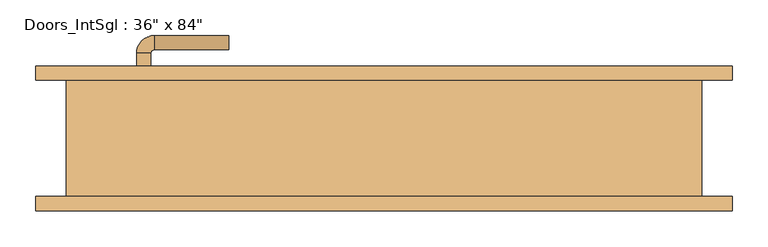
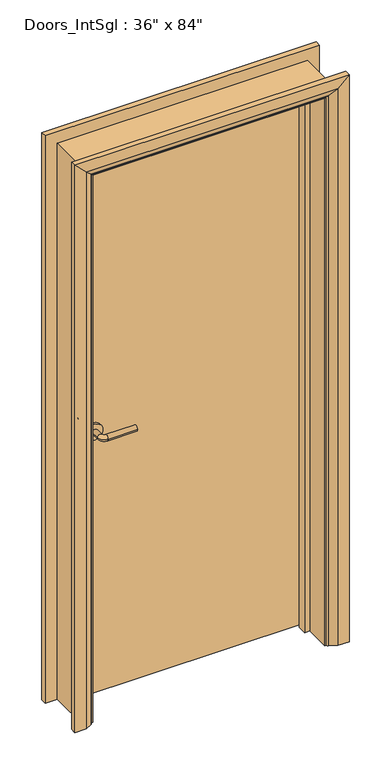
"""IFC4 building model written with IfcOpenShell, lengths in millimetres: door geometry."""

from ifc_helpers import new_model, si_unit, point, frame, frame_2d, origin, place, context, project, spatial, polyline, circle_curve, ellipse_curve, trimmed, segment, composite_curve, outline, extrude, faceted_brep, source, transform, mapped, element, save
from ifc_brep_helpers import plane_surface, cylinder_surface, revolved_surface, advanced_brep


def door_99925bc8(model_context):
    return source(origin(), model_context, "Body", "SolidModel", [
        advanced_brep(
        [(-348.0, 36.0, 1000.0), (-328.0, 36.0, 1000.0), (-328.0, 6.0, 1000.0), (-348.0, 6.0, 1000.0), (-323.0, 1.0, 1000.0), (-323.0, -19.0, 1000.0), (-218.0, -19.0, 1000.0), (-218.0, 1.0, 1000.0)],
        [
            (0, 1, circle_curve(frame((-338.0, 36.0, 1000.0), z_axis=(0.0, 1.0, 0.0), x_axis=(1.0, 0.0, 0.0)), 10.0)),
            (1, 0, circle_curve(frame((-338.0, 36.0, 1000.0), z_axis=(0.0, 1.0, 0.0), x_axis=(1.0, 0.0, 0.0)), 10.0)),
            (1, 2),
            (2, 3, circle_curve(frame((-338.0, 6.0, 1000.0), z_axis=(0.0, 1.0, 0.0), x_axis=(1.0, 0.0, 0.0)), 10.0)),
            (3, 0),
            (3, 2, circle_curve(frame((-338.0, 6.0, 1000.0), z_axis=(0.0, 1.0, 0.0), x_axis=(1.0, 0.0, 0.0)), 10.0)),
            (4, 5, circle_curve(frame((-323.0, -9.0, 1000.0), z_axis=(-1.0, 0.0, 0.0), x_axis=(0.0, 1.0, 0.0)), 10.0)),
            (5, 3, circle_curve(frame((-323.0, 6.0, 1000.0), z_axis=(0.0, 0.0, -1.0), x_axis=(-1.0, 0.0, 0.0)), 25.0)),
            (2, 4, circle_curve(frame((-323.0, 6.0, 1000.0), z_axis=(0.0, 0.0, 1.0), x_axis=(-1.0, 0.0, 0.0)), 5.0)),
            (5, 4, circle_curve(frame((-323.0, -9.0, 1000.0), z_axis=(-1.0, 0.0, 0.0), x_axis=(0.0, 1.0, 0.0)), 10.0)),
            (6, 7, circle_curve(frame((-218.0, -9.0, 1000.0), z_axis=(1.0, 0.0, 0.0), x_axis=(0.0, 1.0, 0.0)), 10.0)),
            (7, 6, circle_curve(frame((-218.0, -9.0, 1000.0), z_axis=(1.0, 0.0, 0.0), x_axis=(0.0, 1.0, 0.0)), 10.0)),
            (4, 7),
            (6, 5),
        ],
        [
            plane_surface(frame((-338.0, 36.0, 1000.0), z_axis=(0.0, 1.0, 0.0), x_axis=(0.0, 0.0, 1.0))),
            cylinder_surface(frame((-338.0, 36.0, 1000.0), z_axis=(0.0, 1.0, 0.0), x_axis=(1.0, 0.0, 0.0)), 10.0),
            revolved_surface(trimmed(ellipse_curve(frame((-338.0, 6.0, 1000.0), z_axis=(0.0, -1.0, 0.0), x_axis=(1.0, 0.0, 0.0)), 10.0, 10.0), [point((-348.0, 6.0, 1000.0))], [point((-328.0, 6.0, 1000.0))], True, "CARTESIAN"), (-323.0, 6.0, 1000.0), (0.0, 0.0, -1.0)),
            revolved_surface(trimmed(ellipse_curve(frame((-338.0, 6.0, 1000.0), z_axis=(0.0, -1.0, 0.0), x_axis=(1.0, 0.0, 0.0)), 10.0, 10.0), [point((-328.0, 6.0, 1000.0))], [point((-348.0, 6.0, 1000.0))], True, "CARTESIAN"), (-323.0, 6.0, 1000.0), (0.0, 0.0, -1.0)),
            plane_surface(frame((-218.0, -9.0, 1000.0), z_axis=(1.0, 0.0, 0.0), x_axis=(0.0, 0.0, 1.0))),
            cylinder_surface(frame((-323.0, -9.0, 1000.0), z_axis=(-1.0, 0.0, 0.0), x_axis=(0.0, 1.0, 0.0)), 10.0),
        ],
        [
            (0, [[1, 2]]),
            (1, [[3, 4, 5, -2]]),
            (1, [[-5, 6, -3, -1]]),
            (2, [[7, 8, -4, 9]]),
            (3, [[10, -9, -6, -8]]),
            (4, [[11, 12]]),
            (5, [[13, -11, 14, -7]]),
            (5, [[-14, -12, -13, -10]]),
        ],
    ),
        extrude(outline(composite_curve([segment(trimmed(circle_curve(frame_2d((1000.0, -340.5)), 30.0), [point((1000.0, -370.5))], [point((1000.0, -310.5))], False, "CARTESIAN"), True, "CONTINUOUS"), segment(trimmed(circle_curve(frame_2d((1000.0, -340.5)), 30.0), [point((1000.0, -310.5))], [point((1000.0, -370.5))], False, "CARTESIAN"), True, "CONTINUOUS")], self_intersect=False)), frame((0.0, 36.0, 0.0), z_axis=(0.0, 1.0, 0.0), x_axis=(0.0, 0.0, 1.0)), (0.0, 0.0, 1.0), 8.0),
        advanced_brep(
        [(-348.0, 90.0, 1000.0), (-328.0, 90.0, 1000.0), (-348.0, 120.0, 1000.0), (-328.0, 120.0, 1000.0), (-323.0, 125.0, 1000.0), (-323.0, 145.0, 1000.0), (-218.0, 145.0, 1000.0), (-218.0, 125.0, 1000.0)],
        [
            (0, 1, circle_curve(frame((-338.0, 90.0, 1000.0), z_axis=(0.0, -1.0, 0.0), x_axis=(1.0, 0.0, 0.0)), 10.0)),
            (1, 0, circle_curve(frame((-338.0, 90.0, 1000.0), z_axis=(0.0, -1.0, 0.0), x_axis=(1.0, 0.0, 0.0)), 10.0)),
            (0, 2),
            (2, 3, circle_curve(frame((-338.0, 120.0, 1000.0), z_axis=(0.0, -1.0, 0.0), x_axis=(1.0, 0.0, 0.0)), 10.0)),
            (3, 1),
            (3, 2, circle_curve(frame((-338.0, 120.0, 1000.0), z_axis=(0.0, -1.0, 0.0), x_axis=(1.0, 0.0, 0.0)), 10.0)),
            (4, 3, circle_curve(frame((-323.0, 120.0, 1000.0), z_axis=(0.0, 0.0, 1.0), x_axis=(-1.0, 0.0, 0.0)), 5.0)),
            (2, 5, circle_curve(frame((-323.0, 120.0, 1000.0), z_axis=(0.0, 0.0, -1.0), x_axis=(-1.0, 0.0, 0.0)), 25.0)),
            (5, 4, circle_curve(frame((-323.0, 135.0, 1000.0), z_axis=(-1.0, 0.0, 0.0), x_axis=(0.0, -1.0, 0.0)), 10.0)),
            (4, 5, circle_curve(frame((-323.0, 135.0, 1000.0), z_axis=(-1.0, 0.0, 0.0), x_axis=(0.0, -1.0, 0.0)), 10.0)),
            (6, 7, circle_curve(frame((-218.0, 135.0, 1000.0), z_axis=(1.0, 0.0, 0.0), x_axis=(0.0, -1.0, 0.0)), 10.0)),
            (7, 6, circle_curve(frame((-218.0, 135.0, 1000.0), z_axis=(1.0, 0.0, 0.0), x_axis=(0.0, -1.0, 0.0)), 10.0)),
            (5, 6),
            (7, 4),
        ],
        [
            plane_surface(frame((-338.0, 90.0, 1000.0), z_axis=(0.0, -1.0, 0.0), x_axis=(0.0, 0.0, 1.0))),
            cylinder_surface(frame((-338.0, 90.0, 1000.0), z_axis=(0.0, -1.0, 0.0), x_axis=(1.0, 0.0, 0.0)), 10.0),
            revolved_surface(trimmed(ellipse_curve(frame((-338.0, 120.0, 1000.0), z_axis=(0.0, -1.0, 0.0), x_axis=(1.0, 0.0, 0.0)), 10.0, 10.0), [point((-348.0, 120.0, 1000.0))], [point((-328.0, 120.0, 1000.0))], True, "CARTESIAN"), (-323.0, 120.0, 1000.0), (0.0, 0.0, -1.0)),
            revolved_surface(trimmed(ellipse_curve(frame((-338.0, 120.0, 1000.0), z_axis=(0.0, -1.0, 0.0), x_axis=(1.0, 0.0, 0.0)), 10.0, 10.0), [point((-328.0, 120.0, 1000.0))], [point((-348.0, 120.0, 1000.0))], True, "CARTESIAN"), (-323.0, 120.0, 1000.0), (0.0, 0.0, -1.0)),
            plane_surface(frame((-218.0, 135.0, 1000.0), z_axis=(1.0, 0.0, 0.0), x_axis=(0.0, 0.0, 1.0))),
            cylinder_surface(frame((-323.0, 135.0, 1000.0), z_axis=(-1.0, 0.0, 0.0), x_axis=(0.0, -1.0, 0.0)), 10.0),
        ],
        [
            (0, [[1, 2]]),
            (1, [[-1, 3, 4, 5]]),
            (1, [[-2, -5, 6, -3]]),
            (2, [[7, -4, 8, 9]]),
            (3, [[-8, -6, -7, 10]]),
            (4, [[11, 12]]),
            (5, [[-9, 13, -12, 14]]),
            (5, [[-10, -14, -11, -13]]),
        ],
    ),
        extrude(outline(composite_curve([segment(trimmed(circle_curve(frame_2d((1000.0, -340.5)), 30.0), [point((1000.0, -370.5))], [point((1000.0, -310.5))], False, "CARTESIAN"), True, "CONTINUOUS"), segment(trimmed(circle_curve(frame_2d((1000.0, -340.5)), 30.0), [point((1000.0, -310.5))], [point((1000.0, -370.5))], False, "CARTESIAN"), True, "CONTINUOUS")], self_intersect=False)), frame((0.0, 82.0, 0.0), z_axis=(0.0, 1.0, 0.0), x_axis=(0.0, 0.0, 1.0)), (0.0, 0.0, 1.0), 8.0),
        extrude(outline(polyline([(413.0, 44.0), (-413.0, 44.0), (-413.0, 82.0), (413.0, 82.0), (413.0, 44.0)])), frame((0.0, 0.0, 8.0), z_axis=(0.0, 0.0, 1.0), x_axis=(1.0, 0.0, 0.0)), (0.0, 0.0, 1.0), 2060.0),
        advanced_brep(
        [(490.0, 102.0, 0.0), (490.0, 82.0, 0.0), (420.0, 82.0, 0.0), (424.0, 88.0, 0.0), (450.0, 102.0, 0.0), (490.0, 102.0, 2145.0), (490.0, 82.0, 2145.0), (-490.0, 82.0, 2145.0), (-490.0, 82.0, 0.0), (-420.0, 82.0, 0.0), (-420.0, 82.0, 2075.0), (420.0, 82.0, 2075.0), (424.0, 88.0, 2079.0), (450.0, 102.0, 2105.0), (-450.0, 102.0, 2105.0), (-450.0, 102.0, 0.0), (-490.0, 102.0, 0.0), (-490.0, 102.0, 2145.0), (-424.0, 88.0, 2079.0), (-424.0, 88.0, 0.0)],
        [
            (0, 1),
            (1, 2),
            (2, 3, circle_curve(frame((428.0, 81.0, 0.0), z_axis=(0.0, 0.0, -1.0), x_axis=(1.0, 0.0, 0.0)), 8.0622577)),
            (3, 4),
            (4, 0),
            (0, 5),
            (5, 6),
            (6, 1),
            (6, 7),
            (7, 8),
            (8, 9),
            (9, 10),
            (10, 11),
            (11, 2),
            (11, 12, ellipse_curve(frame((428.0, 81.0, 2083.0), z_axis=(0.7071067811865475, 0.0, -0.7071067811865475), x_axis=(-0.7071067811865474, 0.0, -0.7071067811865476)), 11.4017543, 8.0622577)),
            (12, 3),
            (12, 13),
            (13, 4),
            (13, 14),
            (14, 15),
            (15, 16),
            (16, 17),
            (17, 5),
            (17, 7),
            (10, 18, ellipse_curve(frame((-428.0, 81.0, 2083.0), z_axis=(0.7071067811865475, 0.0, 0.7071067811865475), x_axis=(0.7071067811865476, 0.0, -0.7071067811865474)), 11.4017543, 8.0622577)),
            (18, 12),
            (18, 14),
            (15, 19),
            (19, 9, circle_curve(frame((-428.0, 81.0, 0.0), z_axis=(0.0, 0.0, -1.0), x_axis=(-1.0, 0.0, 0.0)), 8.0622577)),
            (8, 16),
            (19, 18),
        ],
        [
            plane_surface(frame((420.0, 82.0, 0.0), z_axis=(0.0, 0.0, -1.0), x_axis=(0.0, -1.0, 0.0))),
            plane_surface(frame((490.0, 102.0, 0.0), z_axis=(1.0, 0.0, 0.0), x_axis=(0.0, 0.0, 1.0))),
            plane_surface(frame((490.0, 82.0, 0.0), z_axis=(0.0, -1.0, 0.0), x_axis=(0.0, 0.0, 1.0))),
            cylinder_surface(frame((428.0, 81.0, 0.0), z_axis=(0.0, 0.0, -1.0), x_axis=(1.0, 0.0, 0.0)), 8.0622577),
            plane_surface(frame((424.0, 88.0, 0.0), z_axis=(-0.4740998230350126, 0.880471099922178, 0.0), x_axis=(0.0, 0.0, 1.0))),
            plane_surface(frame((450.0, 102.0, 0.0), z_axis=(0.0, 1.0, 0.0), x_axis=(0.0, 0.0, 1.0))),
            plane_surface(frame((490.0, 102.0, 2145.0), z_axis=(0.0, 0.0, 1.0), x_axis=(-1.0, 0.0, 0.0))),
            cylinder_surface(frame((420.0, 81.0, 2083.0), z_axis=(1.0, 0.0, 0.0), x_axis=(0.0, 0.0, 1.0)), 8.0622577),
            plane_surface(frame((424.0, 88.0, 2079.0), z_axis=(0.0, 0.8804710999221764, -0.4740998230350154), x_axis=(-1.0, 0.0, 0.0))),
            plane_surface(frame((-420.0, 82.0, 0.0), z_axis=(0.0, 0.0, -1.0), x_axis=(0.0, -1.0, 0.0))),
            plane_surface(frame((-490.0, 102.0, 2145.0), z_axis=(-1.0, 0.0, 0.0), x_axis=(0.0, 0.0, -1.0))),
            cylinder_surface(frame((-428.0, 81.0, 2075.0), z_axis=(0.0, 0.0, 1.0), x_axis=(-1.0, 0.0, 0.0)), 8.0622577),
            plane_surface(frame((-424.0, 88.0, 2079.0), z_axis=(0.47409982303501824, 0.8804710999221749, 0.0), x_axis=(0.0, 0.0, -1.0))),
        ],
        [
            (0, [[1, 2, 3, 4, 5]]),
            (1, [[-1, 6, 7, 8]]),
            (2, [[-2, -8, 9, 10, 11, 12, 13, 14]]),
            (3, [[-3, -14, 15, 16]]),
            (4, [[-4, -16, 17, 18]]),
            (5, [[-5, -18, 19, 20, 21, 22, 23, -6]]),
            (6, [[-7, -23, 24, -9]]),
            (7, [[-15, -13, 25, 26]]),
            (8, [[-17, -26, 27, -19]]),
            (9, [[-21, 28, 29, -11, 30]]),
            (10, [[-24, -22, -30, -10]]),
            (11, [[-25, -12, -29, 31]]),
            (12, [[-27, -31, -28, -20]]),
        ],
    ),
        extrude(outline(polyline([(0.0, -415.0), (0.0, -396.0), (2051.0, -396.0), (2051.0, 396.0), (0.0, 396.0), (0.0, 415.0), (2070.0, 415.0), (2070.0, -415.0), (0.0, -415.0)])), frame((0.0, 10.0, 0.0), z_axis=(0.0, 1.0, 0.0), x_axis=(0.0, 0.0, 1.0)), (0.0, 0.0, 1.0), 32.0),
        advanced_brep(
        [(-490.0, -102.0, 0.0), (-490.0, -82.0, 0.0), (-420.0, -82.0, 0.0), (-424.0, -88.0, 0.0), (-450.0, -102.0, 0.0), (-490.0, -102.0, 2145.0), (-490.0, -82.0, 2145.0), (-420.0, -82.0, 2075.0), (-424.0, -88.0, 2079.0), (-450.0, -102.0, 2105.0), (490.0, -102.0, 2145.0), (490.0, -82.0, 2145.0), (420.0, -82.0, 2075.0), (424.0, -88.0, 2079.0), (450.0, -102.0, 2105.0), (490.0, -102.0, 0.0), (450.0, -102.0, 0.0), (424.0, -88.0, 0.0), (420.0, -82.0, 0.0), (490.0, -82.0, 0.0)],
        [
            (0, 1),
            (1, 2),
            (2, 3, circle_curve(frame((-428.0, -81.0, 0.0), z_axis=(0.0, 0.0, -1.0), x_axis=(-1.0, 0.0, 0.0)), 8.0622577)),
            (3, 4),
            (4, 0),
            (0, 5),
            (5, 6),
            (6, 1),
            (6, 7),
            (7, 2),
            (7, 8, ellipse_curve(frame((-428.0, -81.0, 2083.0), z_axis=(-0.7071067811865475, 0.0, -0.7071067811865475), x_axis=(0.7071067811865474, 0.0, -0.7071067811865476)), 11.4017543, 8.0622577)),
            (8, 3),
            (8, 9),
            (9, 4),
            (9, 5),
            (5, 10),
            (10, 11),
            (11, 6),
            (11, 12),
            (12, 7),
            (12, 13, ellipse_curve(frame((428.0, -81.0, 2083.0), z_axis=(-0.7071067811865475, 0.0, 0.7071067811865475), x_axis=(-0.7071067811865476, 0.0, -0.7071067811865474)), 11.4017543, 8.0622577)),
            (13, 8),
            (13, 14),
            (14, 9),
            (14, 10),
            (15, 16),
            (16, 17),
            (17, 18, circle_curve(frame((428.0, -81.0, 0.0), z_axis=(0.0, 0.0, -1.0), x_axis=(1.0, 0.0, 0.0)), 8.0622577)),
            (18, 19),
            (19, 15),
            (10, 15),
            (19, 11),
            (18, 12),
            (17, 13),
            (16, 14),
        ],
        [
            plane_surface(frame((-420.0, -154.8010989, 0.0), z_axis=(0.0, 0.0, -1.0), x_axis=(1.0, 0.0, 0.0))),
            plane_surface(frame((-490.0, -102.0, 0.0), z_axis=(-1.0, 0.0, 0.0), x_axis=(0.0, 0.0, 1.0))),
            plane_surface(frame((-490.0, -82.0, 0.0), z_axis=(0.0, 1.0, 0.0), x_axis=(0.0, 0.0, 1.0))),
            cylinder_surface(frame((-428.0, -81.0, 0.0), z_axis=(0.0, 0.0, -1.0), x_axis=(-1.0, 0.0, 0.0)), 8.0622577),
            plane_surface(frame((-424.0, -88.0, 0.0), z_axis=(0.4740998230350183, -0.8804710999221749, 0.0), x_axis=(0.0, 0.0, 1.0))),
            plane_surface(frame((-450.0, -102.0, 0.0), z_axis=(0.0, -1.0, 0.0), x_axis=(0.0, 0.0, 1.0))),
            plane_surface(frame((-490.0, -102.0, 2145.0), z_axis=(0.0, 0.0, 1.0), x_axis=(1.0, 0.0, 0.0))),
            plane_surface(frame((-490.0, -82.0, 2145.0), z_axis=(0.0, 1.0, 0.0), x_axis=(1.0, 0.0, 0.0))),
            cylinder_surface(frame((-420.0, -81.0, 2083.0), z_axis=(-1.0, 0.0, 0.0), x_axis=(0.0, 0.0, 1.0)), 8.0622577),
            plane_surface(frame((-424.0, -88.0, 2079.0), z_axis=(0.0, -0.8804710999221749, -0.4740998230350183), x_axis=(1.0, 0.0, 0.0))),
            plane_surface(frame((-450.0, -102.0, 2105.0), z_axis=(0.0, -1.0, 0.0), x_axis=(1.0, 0.0, 0.0))),
            plane_surface(frame((420.0, -154.8010989, 0.0), z_axis=(0.0, 0.0, -1.0), x_axis=(-1.0, 0.0, 0.0))),
            plane_surface(frame((490.0, -102.0, 2145.0), z_axis=(1.0, 0.0, 0.0), x_axis=(0.0, 0.0, -1.0))),
            plane_surface(frame((490.0, -82.0, 2145.0), z_axis=(0.0, 1.0, 0.0), x_axis=(0.0, 0.0, -1.0))),
            cylinder_surface(frame((428.0, -81.0, 2075.0), z_axis=(0.0, 0.0, 1.0), x_axis=(1.0, 0.0, 0.0)), 8.0622577),
            plane_surface(frame((424.0, -88.0, 2079.0), z_axis=(-0.4740998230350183, -0.8804710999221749, 0.0), x_axis=(0.0, 0.0, -1.0))),
            plane_surface(frame((450.0, -102.0, 2105.0), z_axis=(0.0, -1.0, 0.0), x_axis=(0.0, 0.0, -1.0))),
        ],
        [
            (0, [[1, 2, 3, 4, 5]]),
            (1, [[-1, 6, 7, 8]]),
            (2, [[-2, -8, 9, 10]]),
            (3, [[-3, -10, 11, 12]]),
            (4, [[-4, -12, 13, 14]]),
            (5, [[-5, -14, 15, -6]]),
            (6, [[-7, 16, 17, 18]]),
            (7, [[-9, -18, 19, 20]]),
            (8, [[-11, -20, 21, 22]]),
            (9, [[-13, -22, 23, 24]]),
            (10, [[-15, -24, 25, -16]]),
            (11, [[26, 27, 28, 29, 30]]),
            (12, [[-17, 31, -30, 32]]),
            (13, [[-19, -32, -29, 33]]),
            (14, [[-21, -33, -28, 34]]),
            (15, [[-23, -34, -27, 35]]),
            (16, [[-25, -35, -26, -31]]),
        ],
    ),
        faceted_brep([(-415.0, 82.0, 0.0), (-415.0, -82.0, 0.0), (-447.0, -82.0, 0.0), (-447.0, 82.0, 0.0), (-415.0, 82.0, 2070.0), (-415.0, -82.0, 2070.0), (-447.0, -82.0, 2102.0), (-447.0, 82.0, 2102.0), (415.0, 82.0, 2070.0), (415.0, -82.0, 2070.0), (447.0, -82.0, 2102.0), (447.0, 82.0, 2102.0), (415.0, 82.0, 0.0), (447.0, 82.0, 0.0), (447.0, -82.0, 0.0), (415.0, -82.0, 0.0)], [[[0, 1, 2, 3]], [[1, 0, 4, 5]], [[2, 1, 5, 6]], [[3, 2, 6, 7]], [[0, 3, 7, 4]], [[5, 4, 8, 9]], [[6, 5, 9, 10]], [[7, 6, 10, 11]], [[4, 7, 11, 8]], [[12, 13, 14, 15]], [[9, 8, 12, 15]], [[10, 9, 15, 14]], [[11, 10, 14, 13]], [[8, 11, 13, 12]]]),
    ])


if __name__ == "__main__":
    model = new_model("IFC4")
    model_context = context("Model", 3, world=origin())
    ifc_project = project(units=[si_unit("LENGTHUNIT", "METRE", prefix="MILLI")], contexts=[model_context])
    site = spatial("IfcSite", under=ifc_project)
    building = spatial("IfcBuilding", under=site)
    placement = place(None, origin())
    door_shape = door_99925bc8(model_context)
    element("IfcDoor", 1, ObjectType="Doors_IntSgl : 36\" x 84\"", at=placement, inside=building, context=model_context, shape_type="MappedRepresentation", body=[
        mapped(door_shape, transform((0.0, 0.0, 0.0), x_axis=(1.0, 0.0, 0.0), y_axis=(0.0, 1.0, 0.0), z_axis=(0.0, 0.0, 1.0))),
    ])
    save(model, "model.ifc")
